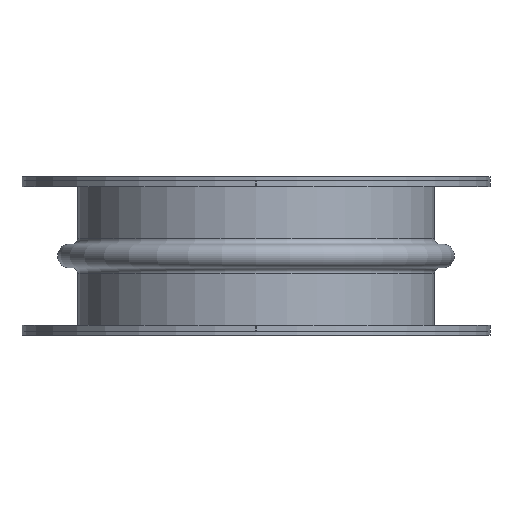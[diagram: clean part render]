
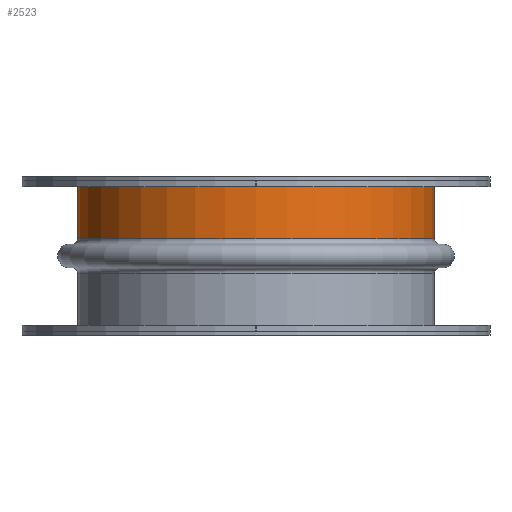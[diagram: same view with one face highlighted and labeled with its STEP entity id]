
A CAD part, front view. The second image highlights one B-rep face of the part: STEP entity #2523.
In plain terms, the highlighted cylindrical face has radius 285.75 mm (diameter 571.5 mm), a full revolution.
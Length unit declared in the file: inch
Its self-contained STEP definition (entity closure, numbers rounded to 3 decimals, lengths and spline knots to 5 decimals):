
#216=FACE_OUTER_BOUND('',#342,.T.);
#342=EDGE_LOOP('',(#1636,#1637,#1638,#1639,#1640));
#636=LINE('',#3811,#756);
#756=VECTOR('',#3017,11.25);
#876=CIRCLE('',#2676,11.25);
#877=CIRCLE('',#2677,11.25);
#878=CIRCLE('',#2678,11.25);
#1086=VERTEX_POINT('',#3807);
#1087=VERTEX_POINT('',#3808);
#1088=VERTEX_POINT('',#3810);
#1306=EDGE_CURVE('',#1086,#1087,#876,.T.);
#1307=EDGE_CURVE('',#1086,#1088,#636,.T.);
#1308=EDGE_CURVE('',#1088,#1088,#877,.T.);
#1309=EDGE_CURVE('',#1087,#1086,#878,.T.);
#1636=ORIENTED_EDGE('',*,*,#1306,.F.);
#1637=ORIENTED_EDGE('',*,*,#1307,.T.);
#1638=ORIENTED_EDGE('',*,*,#1308,.F.);
#1639=ORIENTED_EDGE('',*,*,#1307,.F.);
#1640=ORIENTED_EDGE('',*,*,#1309,.F.);
#2296=CYLINDRICAL_SURFACE('',#2675,11.25);
#2523=ADVANCED_FACE('',(#216),#2296,.T.);
#2675=AXIS2_PLACEMENT_3D('',#3806,#3013,#3014);
#2676=AXIS2_PLACEMENT_3D('',#3809,#3015,#3016);
#2677=AXIS2_PLACEMENT_3D('',#3812,#3018,#3019);
#2678=AXIS2_PLACEMENT_3D('',#3813,#3020,#3021);
#3013=DIRECTION('center_axis',(0.,0.,
-1.));
#3014=DIRECTION('ref_axis',(0.,-1.,0.));
#3015=DIRECTION('center_axis',(0.,0.,
-1.));
#3016=DIRECTION('ref_axis',(-1.,0.,0.));
#3017=DIRECTION('',(0.,0.,1.));
#3018=DIRECTION('center_axis',(0.,0.,
1.));
#3019=DIRECTION('ref_axis',(0.,-1.,0.));
#3020=DIRECTION('center_axis',(0.,0.,
-1.));
#3021=DIRECTION('ref_axis',(-1.,0.,0.));
#3806=CARTESIAN_POINT('Origin',(0.,0.,
2.91667));
#3807=CARTESIAN_POINT('',(0.,11.25,1.08333));
#3808=CARTESIAN_POINT('',(-11.25,0.,1.08333));
#3809=CARTESIAN_POINT('Origin',(0.,0.,
1.08333));
#3810=CARTESIAN_POINT('',(0.,11.25,4.75));
#3811=CARTESIAN_POINT('',(0.,11.25,2.91667));
#3812=CARTESIAN_POINT('Origin',(0.,0.,
4.75));
#3813=CARTESIAN_POINT('Origin',(0.,0.,
1.08333));
